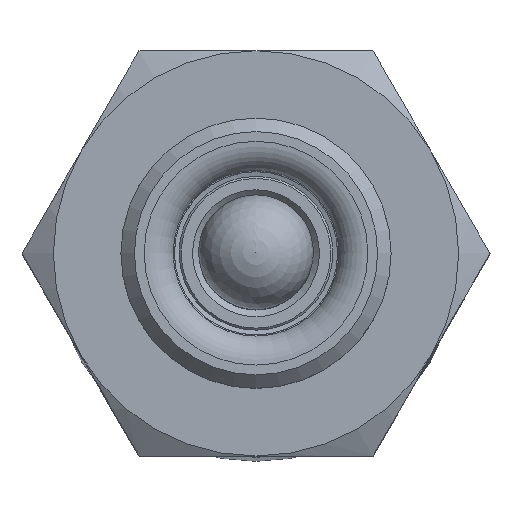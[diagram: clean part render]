
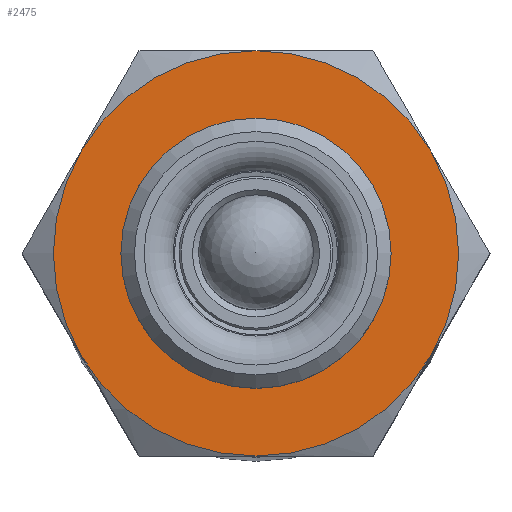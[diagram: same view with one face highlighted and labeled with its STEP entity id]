
A CAD part, top view. The second image highlights one B-rep face of the part: STEP entity #2475.
In plain terms, the highlighted planar face has unit normal (0, 0, 1) as drawn and (-1, 0, 0) by its records, which use the part's own axes.
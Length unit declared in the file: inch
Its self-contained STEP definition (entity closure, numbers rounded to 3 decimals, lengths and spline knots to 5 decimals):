
#182=FACE_BOUND('',#594,.T.);
#243=PLANE('',#2859);
#391=FACE_OUTER_BOUND('',#593,.T.);
#593=EDGE_LOOP('',(#2065,#2066,#2067,#2068,#2069,#2070));
#594=EDGE_LOOP('',(#2071));
#997=CIRCLE('',#2854,0.25006);
#1001=CIRCLE('',#2860,0.375);
#1002=CIRCLE('',#2861,0.375);
#1003=CIRCLE('',#2862,0.375);
#1004=CIRCLE('',#2863,0.375);
#1005=CIRCLE('',#2864,0.375);
#1006=CIRCLE('',#2865,0.375);
#1188=VERTEX_POINT('',#4495);
#1192=VERTEX_POINT('',#4507);
#1193=VERTEX_POINT('',#4508);
#1194=VERTEX_POINT('',#4510);
#1195=VERTEX_POINT('',#4512);
#1196=VERTEX_POINT('',#4514);
#1197=VERTEX_POINT('',#4516);
#1480=EDGE_CURVE('',#1188,#1188,#997,.T.);
#1486=EDGE_CURVE('',#1192,#1193,#1001,.T.);
#1487=EDGE_CURVE('',#1193,#1194,#1002,.T.);
#1488=EDGE_CURVE('',#1194,#1195,#1003,.T.);
#1489=EDGE_CURVE('',#1195,#1196,#1004,.T.);
#1490=EDGE_CURVE('',#1196,#1197,#1005,.T.);
#1491=EDGE_CURVE('',#1197,#1192,#1006,.T.);
#2065=ORIENTED_EDGE('',*,*,#1486,.T.);
#2066=ORIENTED_EDGE('',*,*,#1487,.T.);
#2067=ORIENTED_EDGE('',*,*,#1488,.T.);
#2068=ORIENTED_EDGE('',*,*,#1489,.T.);
#2069=ORIENTED_EDGE('',*,*,#1490,.T.);
#2070=ORIENTED_EDGE('',*,*,#1491,.T.);
#2071=ORIENTED_EDGE('',*,*,#1480,.F.);
#2475=ADVANCED_FACE('',(#391,#182),#243,.F.);
#2854=AXIS2_PLACEMENT_3D('',#4496,#3580,#3581);
#2859=AXIS2_PLACEMENT_3D('',#4506,#3592,#3593);
#2860=AXIS2_PLACEMENT_3D('',#4509,#3594,#3595);
#2861=AXIS2_PLACEMENT_3D('',#4511,#3596,#3597);
#2862=AXIS2_PLACEMENT_3D('',#4513,#3598,#3599);
#2863=AXIS2_PLACEMENT_3D('',#4515,#3600,#3601);
#2864=AXIS2_PLACEMENT_3D('',#4517,#3602,#3603);
#2865=AXIS2_PLACEMENT_3D('',#4518,#3604,#3605);
#3580=DIRECTION('center_axis',(-1.,0.,0.));
#3581=DIRECTION('ref_axis',(0.,0.,-1.));
#3592=DIRECTION('center_axis',(1.,0.,0.));
#3593=DIRECTION('ref_axis',(0.,0.,-1.));
#3594=DIRECTION('center_axis',(-1.,0.,0.));
#3595=DIRECTION('ref_axis',(0.,1.,0.));
#3596=DIRECTION('center_axis',(-1.,0.,0.));
#3597=DIRECTION('ref_axis',(0.,1.,0.));
#3598=DIRECTION('center_axis',(-1.,0.,0.));
#3599=DIRECTION('ref_axis',(0.,1.,0.));
#3600=DIRECTION('center_axis',(-1.,0.,0.));
#3601=DIRECTION('ref_axis',(0.,1.,0.));
#3602=DIRECTION('center_axis',(-1.,0.,0.));
#3603=DIRECTION('ref_axis',(0.,1.,0.));
#3604=DIRECTION('center_axis',(-1.,0.,0.));
#3605=DIRECTION('ref_axis',(0.,1.,0.));
#4495=CARTESIAN_POINT('',(0.,0.,0.25006));
#4496=CARTESIAN_POINT('Origin',(0.,0.,0.));
#4506=CARTESIAN_POINT('Origin',(0.,0.,0.));
#4507=CARTESIAN_POINT('',(0.,-0.32476,-0.1875));
#4508=CARTESIAN_POINT('',(0.,-0.32476,0.1875));
#4509=CARTESIAN_POINT('Origin',(0.,0.,0.));
#4510=CARTESIAN_POINT('',(0.,0.,0.375));
#4511=CARTESIAN_POINT('Origin',(0.,0.,0.));
#4512=CARTESIAN_POINT('',(0.,0.32476,0.1875));
#4513=CARTESIAN_POINT('Origin',(0.,0.,0.));
#4514=CARTESIAN_POINT('',(0.,0.32476,-0.1875));
#4515=CARTESIAN_POINT('Origin',(0.,0.,0.));
#4516=CARTESIAN_POINT('',(0.,0.,-0.375));
#4517=CARTESIAN_POINT('Origin',(0.,0.,0.));
#4518=CARTESIAN_POINT('Origin',(0.,0.,0.));
